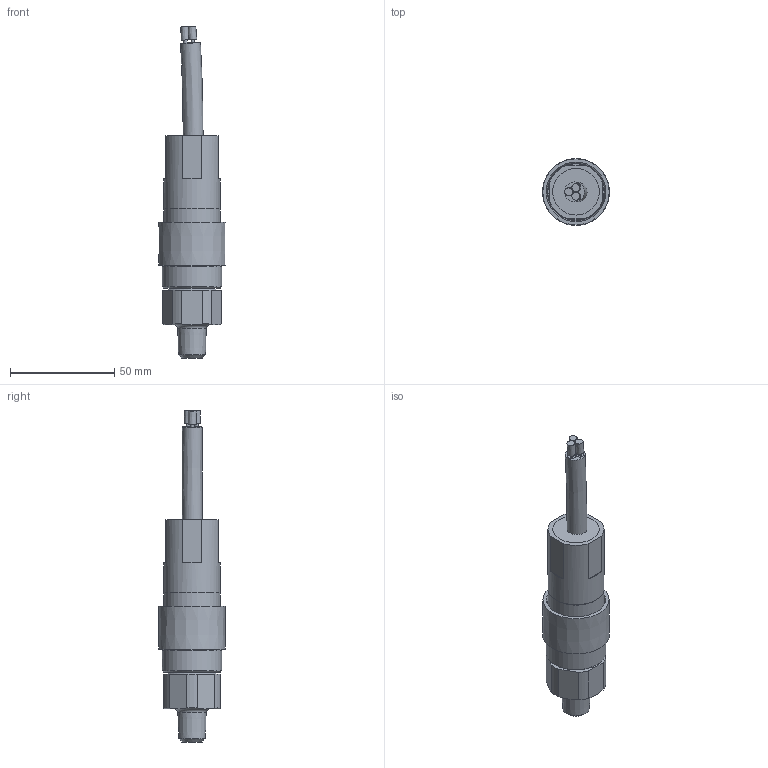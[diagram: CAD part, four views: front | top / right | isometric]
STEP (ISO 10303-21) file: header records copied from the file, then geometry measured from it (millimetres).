
FILE_DESCRIPTION (( 'STEP AP214' ), '1' );
FILE_NAME ('10-G13_G16_V5.STEP', '2025-03-04T21:13:22', ( '' ), ( '' ), 'SwSTEP 2.0', 'SolidWorks 2023', '' );
FILE_SCHEMA (( 'AUTOMOTIVE_DESIGN' ));
Length unit declared in the file: inch
Products named in the file (1): 10-G13_G16_V5
Bounding box: 32.11 x 32.11 x 159.16 mm (x, y, z)
Surface area: 16943.3 mm2 (no closed solid volume)
Topology: 0 solids, 18 shells, 77 faces, 167 edges, 110 vertices
Faces by surface type: plane 34, cone 18, cylinder 13, bspline 10, torus 2
Full cylindrical faces by diameter (mm): 0.851 x1, 3.556 x1, 22.352 x1, 26.873 x2, 26.924 x1, 28.575 x1
Entity records: 2274 total; most frequent: CARTESIAN_POINT 736, DIRECTION 336, ORIENTED_EDGE 234, AXIS2_PLACEMENT_3D 151, EDGE_CURVE 130, EDGE_LOOP 120, VERTEX_POINT 104, FACE_OUTER_BOUND 96
